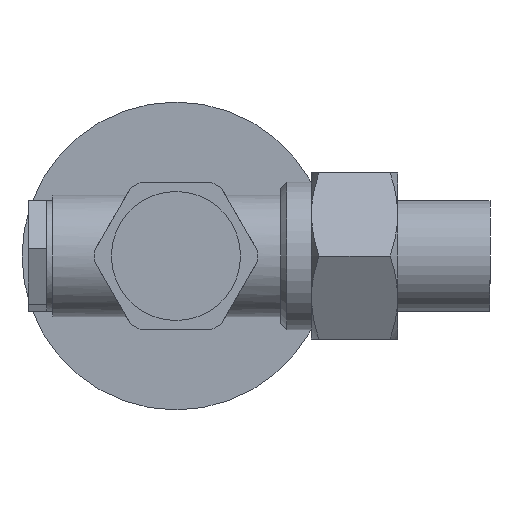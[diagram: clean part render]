
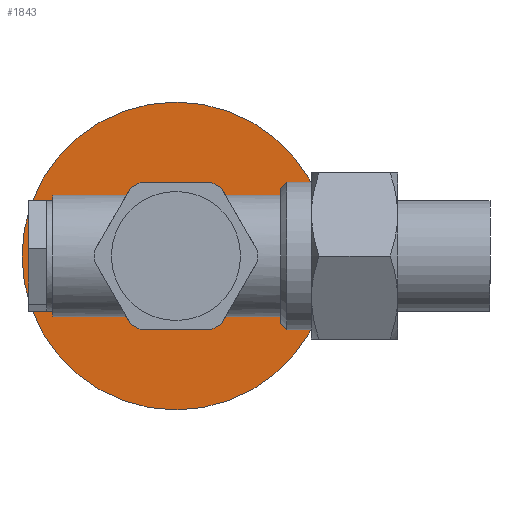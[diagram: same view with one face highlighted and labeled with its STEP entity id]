
A CAD part, left-side view. The second image highlights one B-rep face of the part: STEP entity #1843.
In plain terms, the highlighted planar face has unit normal (-1, 0, 0).
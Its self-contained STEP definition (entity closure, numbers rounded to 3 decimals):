
#103=FACE_BOUND('',#357,.T.);
#237=FACE_OUTER_BOUND('',#356,.T.);
#356=EDGE_LOOP('',(#1411));
#357=EDGE_LOOP('',(#1412));
#644=CIRCLE('',#2070,25.);
#645=CIRCLE('',#2071,7.5);
#784=VERTEX_POINT('',#3436);
#785=VERTEX_POINT('',#3438);
#1017=EDGE_CURVE('',#784,#784,#644,.T.);
#1018=EDGE_CURVE('',#785,#785,#645,.T.);
#1411=ORIENTED_EDGE('',*,*,#1017,.T.);
#1412=ORIENTED_EDGE('',*,*,#1018,.T.);
#1620=PLANE('',#2069);
#1843=ADVANCED_FACE('',(#237,#103),#1620,.T.);
#2069=AXIS2_PLACEMENT_3D('',#3435,#2510,#2511);
#2070=AXIS2_PLACEMENT_3D('',#3437,#2512,#2513);
#2071=AXIS2_PLACEMENT_3D('',#3439,#2514,#2515);
#2510=DIRECTION('center_axis',(-1.,0.,0.));
#2511=DIRECTION('ref_axis',(0.,0.,-1.));
#2512=DIRECTION('center_axis',(-1.,0.,0.));
#2513=DIRECTION('ref_axis',(0.,0.,-1.));
#2514=DIRECTION('center_axis',(1.,0.,0.));
#2515=DIRECTION('ref_axis',(0.,0.,-1.));
#3435=CARTESIAN_POINT('Origin',(27.664,32.307,0.));
#3436=CARTESIAN_POINT('',(27.664,32.307,25.));
#3437=CARTESIAN_POINT('Origin',(27.664,32.307,0.));
#3438=CARTESIAN_POINT('',(27.664,32.307,7.5));
#3439=CARTESIAN_POINT('Origin',(27.664,32.307,0.));
